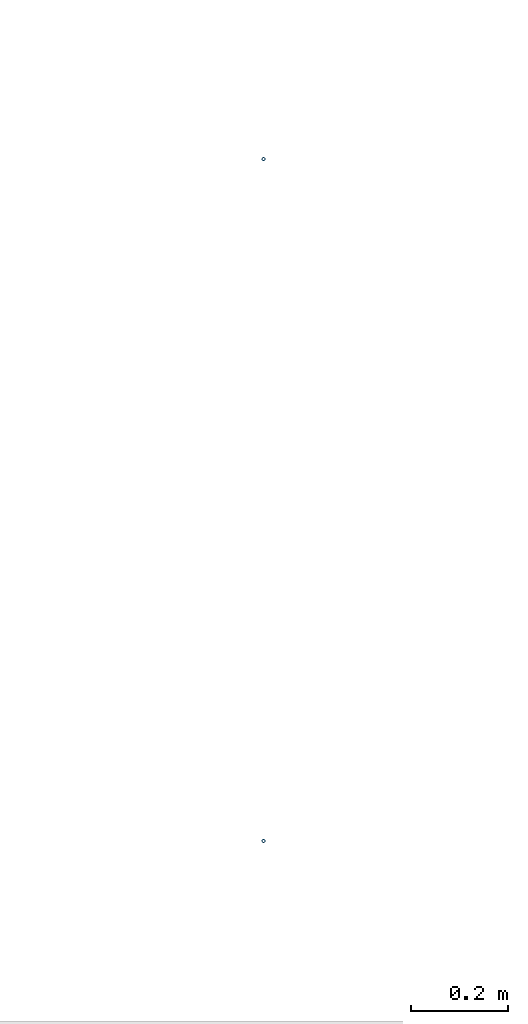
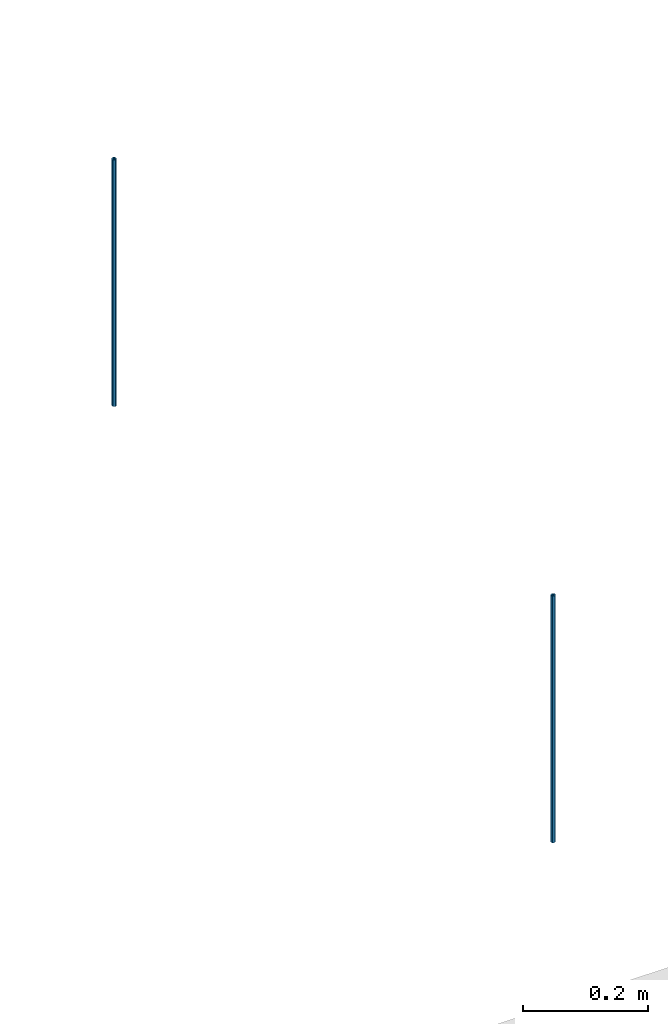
# One storey, part 13 of 23: 2 columns.
"""IFC2X3 building model written with IfcOpenShell, lengths in millimetres."""

from ifc_helpers import new_model, entity, si_unit, converted_unit, derived_unit, direction, frame, origin_with_axes, place, context, subcontext, project, spatial, faceted_brep, material, type_object, element, save


model = new_model("IFC2X3")

# Units and contexts
model_context = context("Model", 3, precision=0.01, world=frame((0.0, 4.29681676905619e-09, 0.0)), true_north=direction((4.01073788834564e-13, 1.0)))
plan_context = context("Plan", 3, precision=0.01, world=frame((0.0, 4.29681676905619e-09, 0.0)), true_north=direction((4.01073788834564e-13, 1.0)))
body_context = subcontext(model_context, "Body", "Model", "MODEL_VIEW")
ifc_project = project(units=[converted_unit("PLANEANGLEUNIT", "DEGREE", entity("IfcPositiveLengthMeasure", 0.0174532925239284), si_unit("PLANEANGLEUNIT", "RADIAN"), dimensions=[0, 0, 0, 0, 0, 0, 0]), si_unit("AREAUNIT", "SQUARE_METRE"), si_unit("LENGTHUNIT", "METRE", prefix="MILLI"), si_unit("MASSUNIT", "GRAM", prefix="KILO"), si_unit("POWERUNIT", "WATT"), si_unit("PRESSUREUNIT", "PASCAL", prefix="KILO"), si_unit("FORCEUNIT", "NEWTON", prefix="KILO"), si_unit("ELECTRICVOLTAGEUNIT", "VOLT"), si_unit("ELECTRICCURRENTUNIT", "AMPERE"), si_unit("THERMODYNAMICTEMPERATUREUNIT", "DEGREE_CELSIUS"), si_unit("TIMEUNIT", "SECOND"), si_unit("VOLUMEUNIT", "CUBIC_METRE"), derived_unit("LINEARVELOCITYUNIT", [(si_unit("LENGTHUNIT", "METRE"), 1), (si_unit("TIMEUNIT", "SECOND"), -1)]), derived_unit("VOLUMETRICFLOWRATEUNIT", [(si_unit("VOLUMEUNIT", "CUBIC_METRE"), 1), (si_unit("TIMEUNIT", "SECOND"), -1)]), derived_unit("THERMALTRANSMITTANCEUNIT", [(si_unit("POWERUNIT", "WATT"), 1), (si_unit("THERMODYNAMICTEMPERATUREUNIT", "KELVIN"), -1), (si_unit("AREAUNIT", "SQUARE_METRE"), -1)]), derived_unit("SOUNDPRESSUREUNIT", [(si_unit("PRESSUREUNIT", "PASCAL"), 1)])], contexts=[model_context, plan_context])

# Site, building, storey
site_placement = place(None, origin_with_axes())
site = spatial("IfcSite", under=ifc_project, at=site_placement, Name="ENGM", CompositionType="ELEMENT")
building_placement = place(site_placement, origin_with_axes())
building = spatial("IfcBuilding", under=site, at=building_placement, Name="TI", CompositionType="ELEMENT")
storey_placement = place(building_placement, frame((0.0, 0.0, 213700.0), z_axis=(0.0, 0.0, 1.0), x_axis=(1.0, 0.0, 0.0)))
storey = spatial("IfcBuildingStorey", under=building, at=storey_placement, Name="Nivå G - 2,0m", CompositionType="ELEMENT", Elevation=213700.0)

# Columns
ifc_material = material(Name="_NSW Stål")
column_type_1 = type_object("IfcColumnType", Name="A241 - GRID-oppheng:A241 - GRID-oppheng - ø10 mm", PredefinedType="COLUMN", material=ifc_material)
column_1_placement = place(storey_placement, frame((593400.000000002, 570300.0, -213700.0), z_axis=(0.0, 0.0, 1.0), x_axis=(1.0, 0.0, 0.0)))
element("IfcColumn", 1, at=column_1_placement, inside=storey, type_object=column_type_1, Name="A241 - GRID-oppheng:A241 - GRID-oppheng - ø10 mm", ObjectType="A241 - GRID-oppheng:A241 - GRID-oppheng - ø10 mm", context=body_context, shape_type="Brep", body=[
    faceted_brep([(2.00000000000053, 2.95521980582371e-15, 214400.0), (1.96961550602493, -0.347296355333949, 214400.0), (1.96961550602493, -0.347296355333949, 213920.0), (2.00000000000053, 2.95521980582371e-15, 213920.0), (1.87938524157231, -0.684040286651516, 214400.0), (1.87938524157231, -0.684040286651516, 213920.0), (1.73205080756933, -1.00000000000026, 214400.0), (1.73205080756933, -1.00000000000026, 213920.0), (1.53208888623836, -1.28557521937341, 214400.0), (1.53208888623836, -1.28557521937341, 213920.0), (1.28557521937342, -1.53208888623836, 214400.0), (1.28557521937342, -1.53208888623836, 213920.0), (1.00000000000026, -1.73205080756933, 214400.0), (1.00000000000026, -1.73205080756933, 213920.0), (0.684040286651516, -1.87938524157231, 214400.0), (0.684040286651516, -1.87938524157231, 213920.0), (0.347296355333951, -1.96961550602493, 214400.0), (0.347296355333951, -1.96961550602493, 213920.0), (-2.38954857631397e-16, -2.00000000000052, 214400.0), (-2.38954857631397e-16, -2.00000000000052, 213920.0), (-0.347296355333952, -1.96961550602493, 214400.0), (-0.347296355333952, -1.96961550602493, 213920.0), (-0.684040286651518, -1.87938524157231, 214400.0), (-0.684040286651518, -1.87938524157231, 213920.0), (-1.00000000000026, -1.73205080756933, 214400.0), (-1.00000000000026, -1.73205080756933, 213920.0), (-1.28557521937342, -1.53208888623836, 214400.0), (-1.28557521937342, -1.53208888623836, 213920.0), (-1.53208888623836, -1.28557521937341, 214400.0), (-1.53208888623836, -1.28557521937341, 213920.0), (-1.73205080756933, -1.00000000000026, 214400.0), (-1.73205080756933, -1.00000000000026, 213920.0), (-1.87938524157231, -0.684040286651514, 214400.0), (-1.87938524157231, -0.684040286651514, 213920.0), (-1.96961550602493, -0.347296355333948, 214400.0), (-1.96961550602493, -0.347296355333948, 213920.0), (-2.00000000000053, 3.20014916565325e-15, 214400.0), (-2.00000000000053, 3.20014916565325e-15, 213920.0), (-1.96961550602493, 0.347296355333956, 214400.0), (-1.96961550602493, 0.347296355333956, 213920.0), (-1.87938524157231, 0.68404028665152, 214400.0), (-1.87938524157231, 0.68404028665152, 213920.0), (-1.73205080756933, 1.00000000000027, 214400.0), (-1.73205080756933, 1.00000000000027, 213920.0), (-1.53208888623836, 1.28557521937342, 214400.0), (-1.53208888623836, 1.28557521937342, 213920.0), (-1.28557521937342, 1.53208888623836, 214400.0), (-1.28557521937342, 1.53208888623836, 213920.0), (-1.00000000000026, 1.73205080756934, 214400.0), (-1.00000000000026, 1.73205080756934, 213920.0), (-0.684040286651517, 1.87938524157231, 214400.0), (-0.684040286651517, 1.87938524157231, 213920.0), (-0.347296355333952, 1.96961550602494, 214400.0), (-0.347296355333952, 1.96961550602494, 213920.0), (2.50903862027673e-16, 2.00000000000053, 214400.0), (2.50903862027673e-16, 2.00000000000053, 213920.0), (0.347296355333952, 1.96961550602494, 214400.0), (0.347296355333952, 1.96961550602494, 213920.0), (0.684040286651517, 1.87938524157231, 214400.0), (0.684040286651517, 1.87938524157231, 213920.0), (1.00000000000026, 1.73205080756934, 214400.0), (1.00000000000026, 1.73205080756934, 213920.0), (1.28557521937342, 1.53208888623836, 214400.0), (1.28557521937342, 1.53208888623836, 213920.0), (1.53208888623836, 1.28557521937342, 214400.0), (1.53208888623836, 1.28557521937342, 213920.0), (1.73205080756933, 1.00000000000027, 214400.0), (1.73205080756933, 1.00000000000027, 213920.0), (1.87938524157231, 0.68404028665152, 214400.0), (1.87938524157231, 0.68404028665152, 213920.0), (1.96961550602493, 0.347296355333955, 214400.0), (1.96961550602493, 0.347296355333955, 213920.0), (3.93923101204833, -0.694592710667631, 214400.0), (3.99999999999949, 2.95521980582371e-15, 214400.0), (3.99999999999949, 2.95521980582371e-15, 213920.0), (3.93923101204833, -0.694592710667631, 213920.0), (3.93923101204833, 0.694592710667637, 214400.0), (3.93923101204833, 0.694592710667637, 213920.0), (3.75877048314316, 1.3680805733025, 214400.0), (3.75877048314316, 1.3680805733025, 213920.0), (3.46410161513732, 1.99999999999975, 214400.0), (3.46410161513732, 1.99999999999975, 213920.0), (3.06417777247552, 2.57115043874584, 214400.0), (3.06417777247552, 2.57115043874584, 213920.0), (2.57115043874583, 3.06417777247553, 214400.0), (2.57115043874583, 3.06417777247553, 213920.0), (1.99999999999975, 3.46410161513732, 214400.0), (1.99999999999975, 3.46410161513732, 213920.0), (1.3680805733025, 3.75877048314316, 214400.0), (1.3680805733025, 3.75877048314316, 213920.0), (0.694592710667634, 3.93923101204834, 214400.0), (0.694592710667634, 3.93923101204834, 213920.0), (3.73368541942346e-16, 3.9999999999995, 214400.0), (3.73368541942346e-16, 3.9999999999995, 213920.0), (-0.694592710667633, 3.93923101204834, 214400.0), (-0.694592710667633, 3.93923101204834, 213920.0), (-1.3680805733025, 3.75877048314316, 214400.0), (-1.3680805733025, 3.75877048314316, 213920.0), (-1.99999999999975, 3.46410161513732, 214400.0), (-1.99999999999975, 3.46410161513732, 213920.0), (-2.57115043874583, 3.06417777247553, 214400.0), (-2.57115043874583, 3.06417777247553, 213920.0), (-3.06417777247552, 2.57115043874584, 214400.0), (-3.06417777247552, 2.57115043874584, 213920.0), (-3.46410161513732, 1.99999999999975, 214400.0), (-3.46410161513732, 1.99999999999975, 213920.0), (-3.75877048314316, 1.36808057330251, 214400.0), (-3.75877048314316, 1.36808057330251, 213920.0), (-3.93923101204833, 0.694592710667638, 214400.0), (-3.93923101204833, 0.694592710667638, 213920.0), (-3.99999999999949, 3.44507852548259e-15, 214400.0), (-3.99999999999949, 3.44507852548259e-15, 213920.0), (-3.93923101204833, -0.694592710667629, 214400.0), (-3.93923101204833, -0.694592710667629, 213920.0), (-3.75877048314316, -1.3680805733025, 214400.0), (-3.75877048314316, -1.3680805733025, 213920.0), (-3.46410161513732, -1.99999999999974, 214400.0), (-3.46410161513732, -1.99999999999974, 213920.0), (-3.06417777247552, -2.57115043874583, 214400.0), (-3.06417777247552, -2.57115043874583, 213920.0), (-2.57115043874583, -3.06417777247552, 214400.0), (-2.57115043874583, -3.06417777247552, 213920.0), (-1.99999999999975, -3.46410161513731, 214400.0), (-1.99999999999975, -3.46410161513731, 213920.0), (-1.3680805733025, -3.75877048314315, 214400.0), (-1.3680805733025, -3.75877048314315, 213920.0), (-0.694592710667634, -3.93923101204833, 214400.0), (-0.694592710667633, -3.93923101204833, 213920.0), (-6.06348897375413e-16, -3.99999999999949, 214400.0), (-6.06348897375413e-16, -3.99999999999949, 213920.0), (0.694592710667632, -3.93923101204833, 214400.0), (0.694592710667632, -3.93923101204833, 213920.0), (1.3680805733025, -3.75877048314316, 214400.0), (1.3680805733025, -3.75877048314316, 213920.0), (1.99999999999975, -3.46410161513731, 214400.0), (1.99999999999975, -3.46410161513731, 213920.0), (2.57115043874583, -3.06417777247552, 214400.0), (2.57115043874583, -3.06417777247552, 213920.0), (3.06417777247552, -2.57115043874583, 214400.0), (3.06417777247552, -2.57115043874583, 213920.0), (3.46410161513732, -1.99999999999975, 214400.0), (3.46410161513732, -1.99999999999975, 213920.0), (3.75877048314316, -1.3680805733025, 214400.0), (3.75877048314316, -1.3680805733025, 213920.0)], [[[0, 1, 2, 3]], [[1, 4, 5, 2]], [[4, 6, 7, 5]], [[6, 8, 9, 7]], [[8, 10, 11, 9]], [[10, 12, 13, 11]], [[12, 14, 15, 13]], [[14, 16, 17, 15]], [[16, 18, 19, 17]], [[18, 20, 21, 19]], [[20, 22, 23, 21]], [[22, 24, 25, 23]], [[24, 26, 27, 25]], [[26, 28, 29, 27]], [[28, 30, 31, 29]], [[30, 32, 33, 31]], [[32, 34, 35, 33]], [[34, 36, 37, 35]], [[36, 38, 39, 37]], [[38, 40, 41, 39]], [[40, 42, 43, 41]], [[42, 44, 45, 43]], [[44, 46, 47, 45]], [[46, 48, 49, 47]], [[48, 50, 51, 49]], [[50, 52, 53, 51]], [[52, 54, 55, 53]], [[54, 56, 57, 55]], [[56, 58, 59, 57]], [[58, 60, 61, 59]], [[60, 62, 63, 61]], [[62, 64, 65, 63]], [[64, 66, 67, 65]], [[66, 68, 69, 67]], [[68, 70, 71, 69]], [[70, 0, 3, 71]], [[72, 73, 74, 75]], [[73, 76, 77, 74]], [[76, 78, 79, 77]], [[78, 80, 81, 79]], [[80, 82, 83, 81]], [[82, 84, 85, 83]], [[84, 86, 87, 85]], [[86, 88, 89, 87]], [[88, 90, 91, 89]], [[90, 92, 93, 91]], [[92, 94, 95, 93]], [[94, 96, 97, 95]], [[96, 98, 99, 97]], [[98, 100, 101, 99]], [[100, 102, 103, 101]], [[102, 104, 105, 103]], [[104, 106, 107, 105]], [[106, 108, 109, 107]], [[108, 110, 111, 109]], [[110, 112, 113, 111]], [[112, 114, 115, 113]], [[114, 116, 117, 115]], [[116, 118, 119, 117]], [[118, 120, 121, 119]], [[120, 122, 123, 121]], [[122, 124, 125, 123]], [[124, 126, 127, 125]], [[126, 128, 129, 127]], [[128, 130, 131, 129]], [[130, 132, 133, 131]], [[132, 134, 135, 133]], [[134, 136, 137, 135]], [[136, 138, 139, 137]], [[138, 140, 141, 139]], [[140, 142, 143, 141]], [[142, 72, 75, 143]], [[75, 74, 77, 79, 81, 83, 85, 87, 89, 91, 93, 95, 97, 99, 101, 103, 105, 107, 109, 111, 113, 115, 117, 119, 121, 123, 125, 127, 129, 131, 133, 135, 137, 139, 141, 143], [3, 2, 5, 7, 9, 11, 13, 15, 17, 19, 21, 23, 25, 27, 29, 31, 33, 35, 37, 39, 41, 43, 45, 47, 49, 51, 53, 55, 57, 59, 61, 63, 65, 67, 69, 71]], [[142, 140, 138, 136, 134, 132, 130, 128, 126, 124, 122, 120, 118, 116, 114, 112, 110, 108, 106, 104, 102, 100, 98, 96, 94, 92, 90, 88, 86, 84, 82, 80, 78, 76, 73, 72], [70, 68, 66, 64, 62, 60, 58, 56, 54, 52, 50, 48, 46, 44, 42, 40, 38, 36, 34, 32, 30, 28, 26, 24, 22, 20, 18, 16, 14, 12, 10, 8, 6, 4, 1, 0]]], orient=[[False], [False], [False], [False], [False], [False], [False], [False], [False], [False], [False], [False], [False], [False], [False], [False], [False], [False], [False], [False], [False], [False], [False], [False], [False], [False], [False], [False], [False], [False], [False], [False], [False], [False], [False], [False], [False], [False], [False], [False], [False], [False], [False], [False], [False], [False], [False], [False], [False], [False], [False], [False], [False], [False], [False], [False], [False], [False], [False], [False], [False], [False], [False], [False], [False], [False], [False], [False], [False], [False], [False], [False], [False, False], [False, False]]),
])
column_type_2 = type_object("IfcColumnType", Name="A241 - GRID-oppheng:A241 - GRID-oppheng - ø10 mm", PredefinedType="COLUMN", material=ifc_material)
column_2_placement = place(storey_placement, frame((593400.000000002, 571700.0, -213700.0), z_axis=(0.0, 0.0, 1.0), x_axis=(1.0, 0.0, 0.0)))
element("IfcColumn", 2, at=column_2_placement, inside=storey, type_object=column_type_2, Name="A241 - GRID-oppheng:A241 - GRID-oppheng - ø10 mm", ObjectType="A241 - GRID-oppheng:A241 - GRID-oppheng - ø10 mm", context=body_context, shape_type="Brep", body=[
    faceted_brep([(2.00000000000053, 2.95521980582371e-15, 214400.0), (1.96961550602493, -0.347296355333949, 214400.0), (1.96961550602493, -0.347296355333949, 213920.0), (2.00000000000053, 2.95521980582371e-15, 213920.0), (1.87938524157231, -0.684040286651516, 214400.0), (1.87938524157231, -0.684040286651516, 213920.0), (1.73205080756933, -1.00000000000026, 214400.0), (1.73205080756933, -1.00000000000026, 213920.0), (1.53208888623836, -1.28557521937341, 214400.0), (1.53208888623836, -1.28557521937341, 213920.0), (1.28557521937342, -1.53208888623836, 214400.0), (1.28557521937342, -1.53208888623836, 213920.0), (1.00000000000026, -1.73205080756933, 214400.0), (1.00000000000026, -1.73205080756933, 213920.0), (0.684040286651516, -1.87938524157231, 214400.0), (0.684040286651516, -1.87938524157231, 213920.0), (0.347296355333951, -1.96961550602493, 214400.0), (0.347296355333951, -1.96961550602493, 213920.0), (-2.38954857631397e-16, -2.00000000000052, 214400.0), (-2.38954857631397e-16, -2.00000000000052, 213920.0), (-0.347296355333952, -1.96961550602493, 214400.0), (-0.347296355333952, -1.96961550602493, 213920.0), (-0.684040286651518, -1.87938524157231, 214400.0), (-0.684040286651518, -1.87938524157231, 213920.0), (-1.00000000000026, -1.73205080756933, 214400.0), (-1.00000000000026, -1.73205080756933, 213920.0), (-1.28557521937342, -1.53208888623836, 214400.0), (-1.28557521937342, -1.53208888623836, 213920.0), (-1.53208888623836, -1.28557521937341, 214400.0), (-1.53208888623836, -1.28557521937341, 213920.0), (-1.73205080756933, -1.00000000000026, 214400.0), (-1.73205080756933, -1.00000000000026, 213920.0), (-1.87938524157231, -0.684040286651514, 214400.0), (-1.87938524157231, -0.684040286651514, 213920.0), (-1.96961550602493, -0.347296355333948, 214400.0), (-1.96961550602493, -0.347296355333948, 213920.0), (-2.00000000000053, 3.20014916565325e-15, 214400.0), (-2.00000000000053, 3.20014916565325e-15, 213920.0), (-1.96961550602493, 0.347296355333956, 214400.0), (-1.96961550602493, 0.347296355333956, 213920.0), (-1.87938524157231, 0.68404028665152, 214400.0), (-1.87938524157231, 0.68404028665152, 213920.0), (-1.73205080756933, 1.00000000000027, 214400.0), (-1.73205080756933, 1.00000000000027, 213920.0), (-1.53208888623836, 1.28557521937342, 214400.0), (-1.53208888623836, 1.28557521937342, 213920.0), (-1.28557521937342, 1.53208888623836, 214400.0), (-1.28557521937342, 1.53208888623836, 213920.0), (-1.00000000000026, 1.73205080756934, 214400.0), (-1.00000000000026, 1.73205080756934, 213920.0), (-0.684040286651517, 1.87938524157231, 214400.0), (-0.684040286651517, 1.87938524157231, 213920.0), (-0.347296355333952, 1.96961550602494, 214400.0), (-0.347296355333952, 1.96961550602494, 213920.0), (2.50903862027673e-16, 2.00000000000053, 214400.0), (2.50903862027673e-16, 2.00000000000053, 213920.0), (0.347296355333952, 1.96961550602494, 214400.0), (0.347296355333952, 1.96961550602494, 213920.0), (0.684040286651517, 1.87938524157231, 214400.0), (0.684040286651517, 1.87938524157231, 213920.0), (1.00000000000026, 1.73205080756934, 214400.0), (1.00000000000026, 1.73205080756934, 213920.0), (1.28557521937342, 1.53208888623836, 214400.0), (1.28557521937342, 1.53208888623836, 213920.0), (1.53208888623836, 1.28557521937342, 214400.0), (1.53208888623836, 1.28557521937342, 213920.0), (1.73205080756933, 1.00000000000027, 214400.0), (1.73205080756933, 1.00000000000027, 213920.0), (1.87938524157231, 0.68404028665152, 214400.0), (1.87938524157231, 0.68404028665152, 213920.0), (1.96961550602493, 0.347296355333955, 214400.0), (1.96961550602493, 0.347296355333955, 213920.0), (3.93923101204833, -0.694592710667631, 214400.0), (3.99999999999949, 2.95521980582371e-15, 214400.0), (3.99999999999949, 2.95521980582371e-15, 213920.0), (3.93923101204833, -0.694592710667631, 213920.0), (3.93923101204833, 0.694592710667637, 214400.0), (3.93923101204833, 0.694592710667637, 213920.0), (3.75877048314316, 1.3680805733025, 214400.0), (3.75877048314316, 1.3680805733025, 213920.0), (3.46410161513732, 1.99999999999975, 214400.0), (3.46410161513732, 1.99999999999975, 213920.0), (3.06417777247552, 2.57115043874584, 214400.0), (3.06417777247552, 2.57115043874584, 213920.0), (2.57115043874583, 3.06417777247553, 214400.0), (2.57115043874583, 3.06417777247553, 213920.0), (1.99999999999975, 3.46410161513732, 214400.0), (1.99999999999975, 3.46410161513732, 213920.0), (1.3680805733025, 3.75877048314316, 214400.0), (1.3680805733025, 3.75877048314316, 213920.0), (0.694592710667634, 3.93923101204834, 214400.0), (0.694592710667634, 3.93923101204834, 213920.0), (3.73368541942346e-16, 3.9999999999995, 214400.0), (3.73368541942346e-16, 3.9999999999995, 213920.0), (-0.694592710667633, 3.93923101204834, 214400.0), (-0.694592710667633, 3.93923101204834, 213920.0), (-1.3680805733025, 3.75877048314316, 214400.0), (-1.3680805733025, 3.75877048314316, 213920.0), (-1.99999999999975, 3.46410161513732, 214400.0), (-1.99999999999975, 3.46410161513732, 213920.0), (-2.57115043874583, 3.06417777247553, 214400.0), (-2.57115043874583, 3.06417777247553, 213920.0), (-3.06417777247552, 2.57115043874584, 214400.0), (-3.06417777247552, 2.57115043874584, 213920.0), (-3.46410161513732, 1.99999999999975, 214400.0), (-3.46410161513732, 1.99999999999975, 213920.0), (-3.75877048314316, 1.36808057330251, 214400.0), (-3.75877048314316, 1.36808057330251, 213920.0), (-3.93923101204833, 0.694592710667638, 214400.0), (-3.93923101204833, 0.694592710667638, 213920.0), (-3.99999999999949, 3.44507852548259e-15, 214400.0), (-3.99999999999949, 3.44507852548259e-15, 213920.0), (-3.93923101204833, -0.694592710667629, 214400.0), (-3.93923101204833, -0.694592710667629, 213920.0), (-3.75877048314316, -1.3680805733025, 214400.0), (-3.75877048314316, -1.3680805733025, 213920.0), (-3.46410161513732, -1.99999999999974, 214400.0), (-3.46410161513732, -1.99999999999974, 213920.0), (-3.06417777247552, -2.57115043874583, 214400.0), (-3.06417777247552, -2.57115043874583, 213920.0), (-2.57115043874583, -3.06417777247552, 214400.0), (-2.57115043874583, -3.06417777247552, 213920.0), (-1.99999999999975, -3.46410161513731, 214400.0), (-1.99999999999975, -3.46410161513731, 213920.0), (-1.3680805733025, -3.75877048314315, 214400.0), (-1.3680805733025, -3.75877048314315, 213920.0), (-0.694592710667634, -3.93923101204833, 214400.0), (-0.694592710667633, -3.93923101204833, 213920.0), (-6.06348897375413e-16, -3.99999999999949, 214400.0), (-6.06348897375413e-16, -3.99999999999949, 213920.0), (0.694592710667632, -3.93923101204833, 214400.0), (0.694592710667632, -3.93923101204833, 213920.0), (1.3680805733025, -3.75877048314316, 214400.0), (1.3680805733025, -3.75877048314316, 213920.0), (1.99999999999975, -3.46410161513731, 214400.0), (1.99999999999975, -3.46410161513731, 213920.0), (2.57115043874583, -3.06417777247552, 214400.0), (2.57115043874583, -3.06417777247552, 213920.0), (3.06417777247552, -2.57115043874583, 214400.0), (3.06417777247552, -2.57115043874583, 213920.0), (3.46410161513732, -1.99999999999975, 214400.0), (3.46410161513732, -1.99999999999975, 213920.0), (3.75877048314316, -1.3680805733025, 214400.0), (3.75877048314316, -1.3680805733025, 213920.0)], [[[0, 1, 2, 3]], [[1, 4, 5, 2]], [[4, 6, 7, 5]], [[6, 8, 9, 7]], [[8, 10, 11, 9]], [[10, 12, 13, 11]], [[12, 14, 15, 13]], [[14, 16, 17, 15]], [[16, 18, 19, 17]], [[18, 20, 21, 19]], [[20, 22, 23, 21]], [[22, 24, 25, 23]], [[24, 26, 27, 25]], [[26, 28, 29, 27]], [[28, 30, 31, 29]], [[30, 32, 33, 31]], [[32, 34, 35, 33]], [[34, 36, 37, 35]], [[36, 38, 39, 37]], [[38, 40, 41, 39]], [[40, 42, 43, 41]], [[42, 44, 45, 43]], [[44, 46, 47, 45]], [[46, 48, 49, 47]], [[48, 50, 51, 49]], [[50, 52, 53, 51]], [[52, 54, 55, 53]], [[54, 56, 57, 55]], [[56, 58, 59, 57]], [[58, 60, 61, 59]], [[60, 62, 63, 61]], [[62, 64, 65, 63]], [[64, 66, 67, 65]], [[66, 68, 69, 67]], [[68, 70, 71, 69]], [[70, 0, 3, 71]], [[72, 73, 74, 75]], [[73, 76, 77, 74]], [[76, 78, 79, 77]], [[78, 80, 81, 79]], [[80, 82, 83, 81]], [[82, 84, 85, 83]], [[84, 86, 87, 85]], [[86, 88, 89, 87]], [[88, 90, 91, 89]], [[90, 92, 93, 91]], [[92, 94, 95, 93]], [[94, 96, 97, 95]], [[96, 98, 99, 97]], [[98, 100, 101, 99]], [[100, 102, 103, 101]], [[102, 104, 105, 103]], [[104, 106, 107, 105]], [[106, 108, 109, 107]], [[108, 110, 111, 109]], [[110, 112, 113, 111]], [[112, 114, 115, 113]], [[114, 116, 117, 115]], [[116, 118, 119, 117]], [[118, 120, 121, 119]], [[120, 122, 123, 121]], [[122, 124, 125, 123]], [[124, 126, 127, 125]], [[126, 128, 129, 127]], [[128, 130, 131, 129]], [[130, 132, 133, 131]], [[132, 134, 135, 133]], [[134, 136, 137, 135]], [[136, 138, 139, 137]], [[138, 140, 141, 139]], [[140, 142, 143, 141]], [[142, 72, 75, 143]], [[75, 74, 77, 79, 81, 83, 85, 87, 89, 91, 93, 95, 97, 99, 101, 103, 105, 107, 109, 111, 113, 115, 117, 119, 121, 123, 125, 127, 129, 131, 133, 135, 137, 139, 141, 143], [3, 2, 5, 7, 9, 11, 13, 15, 17, 19, 21, 23, 25, 27, 29, 31, 33, 35, 37, 39, 41, 43, 45, 47, 49, 51, 53, 55, 57, 59, 61, 63, 65, 67, 69, 71]], [[142, 140, 138, 136, 134, 132, 130, 128, 126, 124, 122, 120, 118, 116, 114, 112, 110, 108, 106, 104, 102, 100, 98, 96, 94, 92, 90, 88, 86, 84, 82, 80, 78, 76, 73, 72], [70, 68, 66, 64, 62, 60, 58, 56, 54, 52, 50, 48, 46, 44, 42, 40, 38, 36, 34, 32, 30, 28, 26, 24, 22, 20, 18, 16, 14, 12, 10, 8, 6, 4, 1, 0]]], orient=[[False], [False], [False], [False], [False], [False], [False], [False], [False], [False], [False], [False], [False], [False], [False], [False], [False], [False], [False], [False], [False], [False], [False], [False], [False], [False], [False], [False], [False], [False], [False], [False], [False], [False], [False], [False], [False], [False], [False], [False], [False], [False], [False], [False], [False], [False], [False], [False], [False], [False], [False], [False], [False], [False], [False], [False], [False], [False], [False], [False], [False], [False], [False], [False], [False], [False], [False], [False], [False], [False], [False], [False], [False, False], [False, False]]),
])

save(model, "model.ifc")
